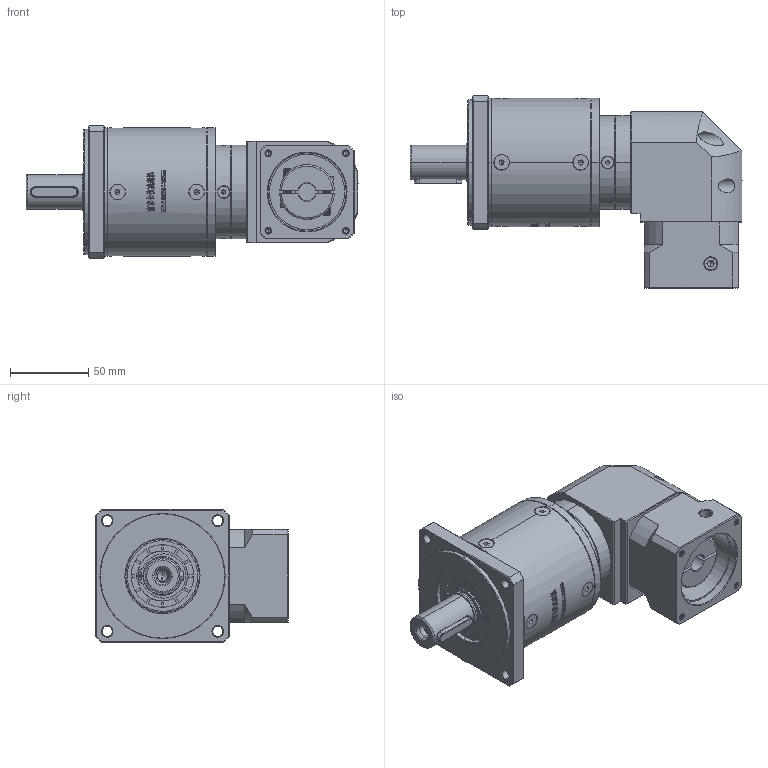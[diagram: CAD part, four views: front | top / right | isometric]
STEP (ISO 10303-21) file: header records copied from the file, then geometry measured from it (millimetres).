
FILE_DESCRIPTION (( 'STEP AP214' ), '1' );
FILE_NAME ('ZFR80-D22-L3-11-50-70-M4.step', '2022-05-08T14:55:21', ( '' ), ( 'Microsoft' ), 'SwSTEP 2.0', 'SolidWorks 2016', '' );
FILE_SCHEMA (( 'AUTOMOTIVE_DESIGN' ));
Length unit declared in the file: millimetre
Products named in the file (1): ZFR80-D22-L3-11-50-70-M4
Bounding box: 212 x 122.7 x 85 mm (x, y, z)
Volume: 890892.2 mm3; surface area: 107679.8 mm2
Topology: 17 solids, 18 shells, 3069 faces, 8191 edges, 5279 vertices
Faces by surface type: plane 1601, bspline 608, cylinder 460, cone 380, torus 20
Entity records: 163380 total; most frequent: CARTESIAN_POINT 58393, ORIENTED_EDGE 16290, DIRECTION 12425, EDGE_CURVE 8145, VERTEX_POINT 5279, VECTOR 4967, LINE 4967, AXIS2_PLACEMENT_3D 3729
